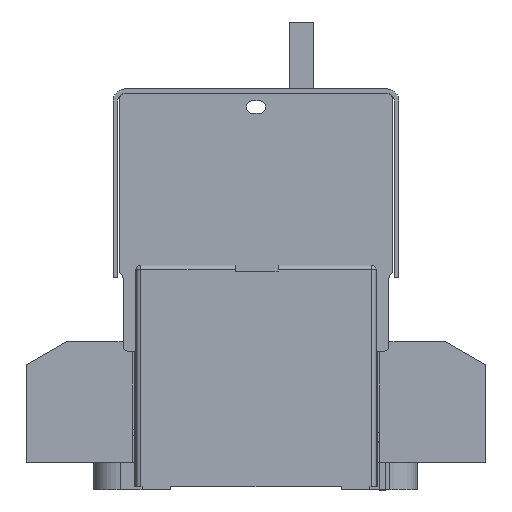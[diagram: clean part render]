
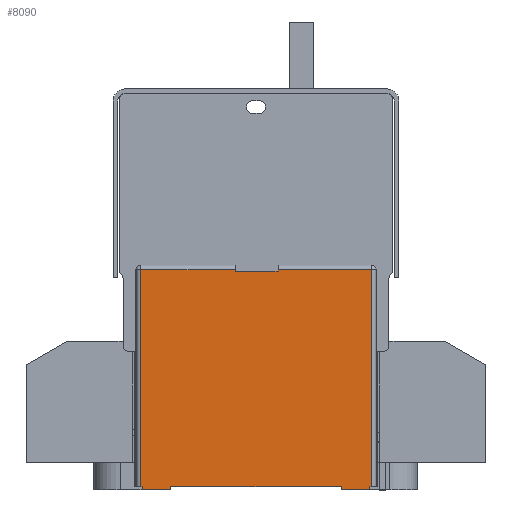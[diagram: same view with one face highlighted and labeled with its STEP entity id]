
A CAD part, left-side view. The second image highlights one B-rep face of the part: STEP entity #8090.
In plain terms, the highlighted planar face has unit normal (-1, 0, 0).
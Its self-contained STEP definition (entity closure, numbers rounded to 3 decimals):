
#828=PLANE('',#24773);
#1897=FACE_OUTER_BOUND('',#10066,.T.);
#4107=LINE('',#37022,#6623);
#4109=LINE('',#37028,#6625);
#4179=LINE('',#37340,#6695);
#4195=LINE('',#37420,#6711);
#4230=LINE('',#37503,#6746);
#4235=LINE('',#37515,#6751);
#4237=LINE('',#37518,#6753);
#4243=LINE('',#37531,#6759);
#4380=LINE('',#37816,#6896);
#4381=LINE('',#37820,#6897);
#4382=LINE('',#37821,#6898);
#4383=LINE('',#37823,#6899);
#4384=LINE('',#37825,#6900);
#4385=LINE('',#37826,#6901);
#4386=LINE('',#37827,#6902);
#4387=LINE('',#37829,#6903);
#6623=VECTOR('',#30040,1.);
#6625=VECTOR('',#30046,1.);
#6695=VECTOR('',#30334,1.);
#6711=VECTOR('',#30446,1.);
#6746=VECTOR('',#30531,1.);
#6751=VECTOR('',#30538,1.);
#6753=VECTOR('',#30542,1.);
#6759=VECTOR('',#30550,1.);
#6896=VECTOR('',#30805,1.);
#6897=VECTOR('',#30810,1.);
#6898=VECTOR('',#30811,1.);
#6899=VECTOR('',#30812,1.);
#6900=VECTOR('',#30813,1.);
#6901=VECTOR('',#30814,1.);
#6902=VECTOR('',#30815,1.);
#6903=VECTOR('',#30816,1.);
#8090=ADVANCED_FACE('',(#1897),#828,.F.);
#10066=EDGE_LOOP('',(#16115,#16116,#16117,#16118,#16119,#16120,#16121,#16122,
#16123,#16124,#16125,#16126,#16127,#16128,#16129,#16130));
#16115=ORIENTED_EDGE('',*,*,#22143,.F.);
#16116=ORIENTED_EDGE('',*,*,#21938,.T.);
#16117=ORIENTED_EDGE('',*,*,#21762,.T.);
#16118=ORIENTED_EDGE('',*,*,#22145,.F.);
#16119=ORIENTED_EDGE('',*,*,#21765,.T.);
#16120=ORIENTED_EDGE('',*,*,#21898,.T.);
#16121=ORIENTED_EDGE('',*,*,#22146,.T.);
#16122=ORIENTED_EDGE('',*,*,#22147,.T.);
#16123=ORIENTED_EDGE('',*,*,#22148,.F.);
#16124=ORIENTED_EDGE('',*,*,#21979,.F.);
#16125=ORIENTED_EDGE('',*,*,#21984,.T.);
#16126=ORIENTED_EDGE('',*,*,#22149,.T.);
#16127=ORIENTED_EDGE('',*,*,#21992,.F.);
#16128=ORIENTED_EDGE('',*,*,#21986,.F.);
#16129=ORIENTED_EDGE('',*,*,#22150,.T.);
#16130=ORIENTED_EDGE('',*,*,#22151,.T.);
#18688=VERTEX_POINT('',#37021);
#18689=VERTEX_POINT('',#37023);
#18691=VERTEX_POINT('',#37029);
#18692=VERTEX_POINT('',#37030);
#18780=VERTEX_POINT('',#37335);
#18781=VERTEX_POINT('',#37339);
#18821=VERTEX_POINT('',#37504);
#18822=VERTEX_POINT('',#37505);
#18826=VERTEX_POINT('',#37514);
#18827=VERTEX_POINT('',#37519);
#18828=VERTEX_POINT('',#37520);
#18831=VERTEX_POINT('',#37528);
#18922=VERTEX_POINT('',#37817);
#18923=VERTEX_POINT('',#37822);
#18924=VERTEX_POINT('',#37824);
#18925=VERTEX_POINT('',#37828);
#21762=EDGE_CURVE('',#18689,#18688,#4107,.T.);
#21765=EDGE_CURVE('',#18691,#18692,#4109,.T.);
#21898=EDGE_CURVE('',#18692,#18781,#4179,.T.);
#21938=EDGE_CURVE('',#18780,#18689,#4195,.T.);
#21979=EDGE_CURVE('',#18821,#18822,#4230,.T.);
#21984=EDGE_CURVE('',#18821,#18826,#4235,.T.);
#21986=EDGE_CURVE('',#18827,#18828,#4237,.T.);
#21992=EDGE_CURVE('',#18828,#18831,#4243,.T.);
#22143=EDGE_CURVE('',#18780,#18922,#4380,.T.);
#22145=EDGE_CURVE('',#18691,#18688,#4381,.T.);
#22146=EDGE_CURVE('',#18781,#18923,#4382,.T.);
#22147=EDGE_CURVE('',#18923,#18924,#4383,.T.);
#22148=EDGE_CURVE('',#18822,#18924,#4384,.T.);
#22149=EDGE_CURVE('',#18826,#18831,#4385,.T.);
#22150=EDGE_CURVE('',#18827,#18925,#4386,.T.);
#22151=EDGE_CURVE('',#18925,#18922,#4387,.T.);
#24773=AXIS2_PLACEMENT_3D('',#37830,#30817,#30818);
#30040=DIRECTION('',(0.,0.,-1.));
#30046=DIRECTION('',(0.,0.,1.));
#30334=DIRECTION('',(0.,1.,0.));
#30446=DIRECTION('',(0.,1.,0.));
#30531=DIRECTION('',(0.,1.,0.));
#30538=DIRECTION('',(0.,0.,1.));
#30542=DIRECTION('',(0.,1.,0.));
#30550=DIRECTION('',(0.,0.,1.));
#30805=DIRECTION('',(0.,0.,-1.));
#30810=DIRECTION('',(0.,-1.,0.));
#30811=DIRECTION('',(0.,0.,-1.));
#30812=DIRECTION('',(0.,-1.,0.));
#30813=DIRECTION('',(0.,0.,1.));
#30814=DIRECTION('',(0.,-1.,0.));
#30815=DIRECTION('',(0.,0.,1.));
#30816=DIRECTION('',(0.,-1.,0.));
#30817=DIRECTION('',(1.,0.,0.));
#30818=DIRECTION('',(0.,0.,-1.));
#37021=CARTESIAN_POINT('',(-69.,-31.985,67.));
#37022=CARTESIAN_POINT('',(-69.,-31.985,69.1));
#37023=CARTESIAN_POINT('',(-69.,-31.985,67.6));
#37028=CARTESIAN_POINT('',(-69.,-17.985,69.1));
#37029=CARTESIAN_POINT('',(-69.,-17.985,67.));
#37030=CARTESIAN_POINT('',(-69.,-17.985,67.6));
#37335=CARTESIAN_POINT('',(-69.,-62.735,67.6));
#37339=CARTESIAN_POINT('',(-69.,13.265,67.6));
#37340=CARTESIAN_POINT('',(-69.,13.265,67.6));
#37420=CARTESIAN_POINT('',(-69.,13.265,67.6));
#37503=CARTESIAN_POINT('',(-69.,3.265,-4.9));
#37504=CARTESIAN_POINT('',(-69.,3.265,-4.9));
#37505=CARTESIAN_POINT('',(-69.,12.765,-4.9));
#37514=CARTESIAN_POINT('',(-69.,3.265,-3.9));
#37515=CARTESIAN_POINT('',(-69.,3.265,-5.9));
#37518=CARTESIAN_POINT('',(-69.,-62.235,-4.9));
#37519=CARTESIAN_POINT('',(-69.,-62.235,-4.9));
#37520=CARTESIAN_POINT('',(-69.,-52.735,-4.9));
#37528=CARTESIAN_POINT('',(-69.,-52.735,-3.9));
#37531=CARTESIAN_POINT('',(-69.,-52.735,-5.9));
#37816=CARTESIAN_POINT('',(-69.,-62.735,69.1));
#37817=CARTESIAN_POINT('',(-69.,-62.735,-3.9));
#37820=CARTESIAN_POINT('',(-69.,12.765,67.));
#37821=CARTESIAN_POINT('',(-69.,13.265,69.1));
#37822=CARTESIAN_POINT('',(-69.,13.265,-3.9));
#37823=CARTESIAN_POINT('',(-69.,-62.235,-3.9));
#37824=CARTESIAN_POINT('',(-69.,12.765,-3.9));
#37825=CARTESIAN_POINT('',(-69.,12.765,-5.9));
#37826=CARTESIAN_POINT('',(-69.,-62.235,-3.9));
#37827=CARTESIAN_POINT('',(-69.,-62.235,-5.9));
#37828=CARTESIAN_POINT('',(-69.,-62.235,-3.9));
#37829=CARTESIAN_POINT('',(-69.,-62.235,-3.9));
#37830=CARTESIAN_POINT('',(-69.,-62.235,69.1));
